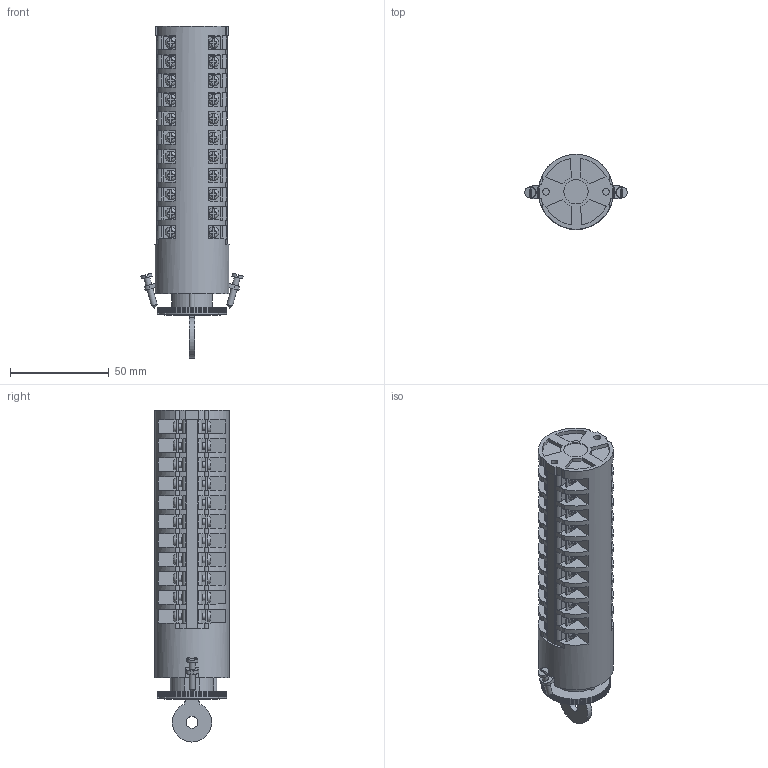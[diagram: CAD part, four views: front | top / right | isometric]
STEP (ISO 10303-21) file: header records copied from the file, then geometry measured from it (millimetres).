
FILE_DESCRIPTION(/* description */ (''),/* implementation_level */ '2;1');
FILE_NAME(/* name */ '4G10-U_wykonanie_S10_11_korpusow.stp',/* time_stamp */ '2021-07-21T08:34:45+02:00',/* author */ (''),/* organization */ (''),/* preprocessor_version */ 'ST-DEVELOPER v18.1',/* originating_system */ 'SIEMENS PLM Software NX 1965',/* authorisation */ '');
FILE_SCHEMA (('AUTOMOTIVE_DESIGN { 1 0 10303 214 3 1 1 1 }'));
Length unit declared in the file: millimetre
Products named in the file (1): 4G10-U_wykonanie_S10_11_korpusow_stp
Bounding box: 51.98 x 38 x 168.28 mm (x, y, z)
Volume: 133004 mm3; surface area: 39861.6 mm2
Topology: 1 solids, 3 shells, 1711 faces, 4841 edges, 3240 vertices
Faces by surface type: plane 1397, cylinder 264, bspline 44, cone 4, torus 2
Full cylindrical faces by diameter (mm): 3 x4, 3.2 x44, 3.4 x4, 5.5 x2, 5.6 x2, 6 x1, 12.3 x1, 15.8 x1, 16.1 x1, 38 x1
Entity records: 55424 total; most frequent: CARTESIAN_POINT 12250, ORIENTED_EDGE 9254, DIRECTION 8482, EDGE_CURVE 4627, VERTEX_POINT 3139, LINE 3052, VECTOR 3052, AXIS2_PLACEMENT_3D 2715
